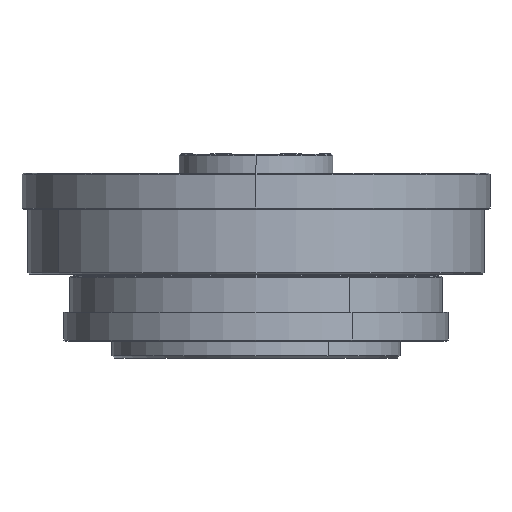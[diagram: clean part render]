
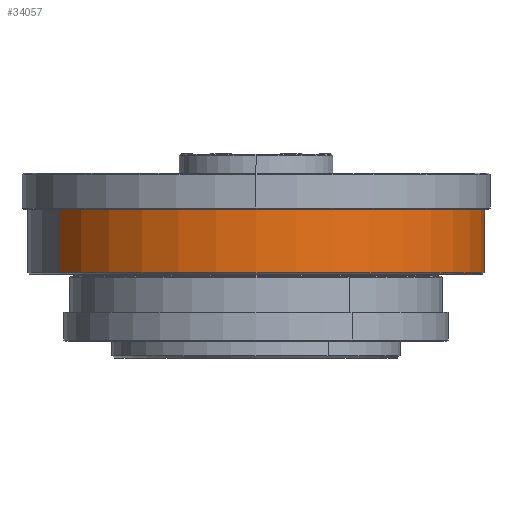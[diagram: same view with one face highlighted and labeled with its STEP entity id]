
A CAD part, left-side view. The second image highlights one B-rep face of the part: STEP entity #34057.
In plain terms, the highlighted cylindrical face has radius 95 mm (diameter 190 mm), a partial arc.
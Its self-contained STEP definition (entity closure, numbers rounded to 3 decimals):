
#2363 = CARTESIAN_POINT ( 'NONE',  ( 47.5, -82.272, -10.3 ) ) ;
#5824 = ORIENTED_EDGE ( 'NONE', *, *, #57285, .T. ) ;
#8341 = VERTEX_POINT ( 'NONE', #49009 ) ;
#8511 = FACE_OUTER_BOUND ( 'NONE', #31983, .T. ) ;
#9977 = DIRECTION ( 'NONE',  ( 0., 0., 1. ) ) ;
#13495 = EDGE_CURVE ( 'NONE', #8341, #24898, #41309, .T. ) ;
#14176 = AXIS2_PLACEMENT_3D ( 'NONE', #60294, #45280, #30514 ) ;
#14194 = CIRCLE ( 'NONE', #23802, 95. ) ;
#14972 = CARTESIAN_POINT ( 'NONE',  ( -47.5, 82.272, -11.5 ) ) ;
#15980 = DIRECTION ( 'NONE',  ( 0., 0., 1. ) ) ;
#18286 = DIRECTION ( 'NONE',  ( 0., 0., 1. ) ) ;
#18986 = AXIS2_PLACEMENT_3D ( 'NONE', #48095, #18286, #53101 ) ;
#20196 = CYLINDRICAL_SURFACE ( 'NONE', #14176, 95. ) ;
#21682 = EDGE_CURVE ( 'NONE', #28642, #26865, #14194, .T. ) ;
#23802 = AXIS2_PLACEMENT_3D ( 'NONE', #24888, #59684, #29917 ) ;
#24888 = CARTESIAN_POINT ( 'NONE',  ( 0., 0., -41.5 ) ) ;
#24898 = VERTEX_POINT ( 'NONE', #2363 ) ;
#26865 = VERTEX_POINT ( 'NONE', #62121 ) ;
#27468 = EDGE_CURVE ( 'NONE', #28642, #8341, #52881, .T. ) ;
#28094 = ORIENTED_EDGE ( 'NONE', *, *, #27468, .F. ) ;
#28642 = VERTEX_POINT ( 'NONE', #31473 ) ;
#28964 = ORIENTED_EDGE ( 'NONE', *, *, #21682, .T. ) ;
#29917 = DIRECTION ( 'NONE',  ( 0.5, -0.866, 0. ) ) ;
#30514 = DIRECTION ( 'NONE',  ( 0.5, -0.866, 0. ) ) ;
#31473 = CARTESIAN_POINT ( 'NONE',  ( -47.5, 82.272, -41.5 ) ) ;
#31983 = EDGE_LOOP ( 'NONE', ( #28094, #28964, #5824, #49133 ) ) ;
#34057 = ADVANCED_FACE ( 'NONE', ( #8511 ), #20196, .T. ) ;
#35798 = LINE ( 'NONE', #45822, #47457 ) ;
#38099 = VECTOR ( 'NONE', #9977, 1000. ) ;
#41309 = CIRCLE ( 'NONE', #18986, 95. ) ;
#45280 = DIRECTION ( 'NONE',  ( 0., 0., 1. ) ) ;
#45822 = CARTESIAN_POINT ( 'NONE',  ( 47.5, -82.272, -11.5 ) ) ;
#47457 = VECTOR ( 'NONE', #15980, 1000. ) ;
#48095 = CARTESIAN_POINT ( 'NONE',  ( 0., 0., -10.3 ) ) ;
#49009 = CARTESIAN_POINT ( 'NONE',  ( -47.5, 82.272, -10.3 ) ) ;
#49133 = ORIENTED_EDGE ( 'NONE', *, *, #13495, .F. ) ;
#52881 = LINE ( 'NONE', #14972, #38099 ) ;
#53101 = DIRECTION ( 'NONE',  ( 0.5, -0.866, 0. ) ) ;
#57285 = EDGE_CURVE ( 'NONE', #26865, #24898, #35798, .T. ) ;
#59684 = DIRECTION ( 'NONE',  ( 0., 0., 1. ) ) ;
#60294 = CARTESIAN_POINT ( 'NONE',  ( 0., 0., -11.5 ) ) ;
#62121 = CARTESIAN_POINT ( 'NONE',  ( 47.5, -82.272, -41.5 ) ) ;
